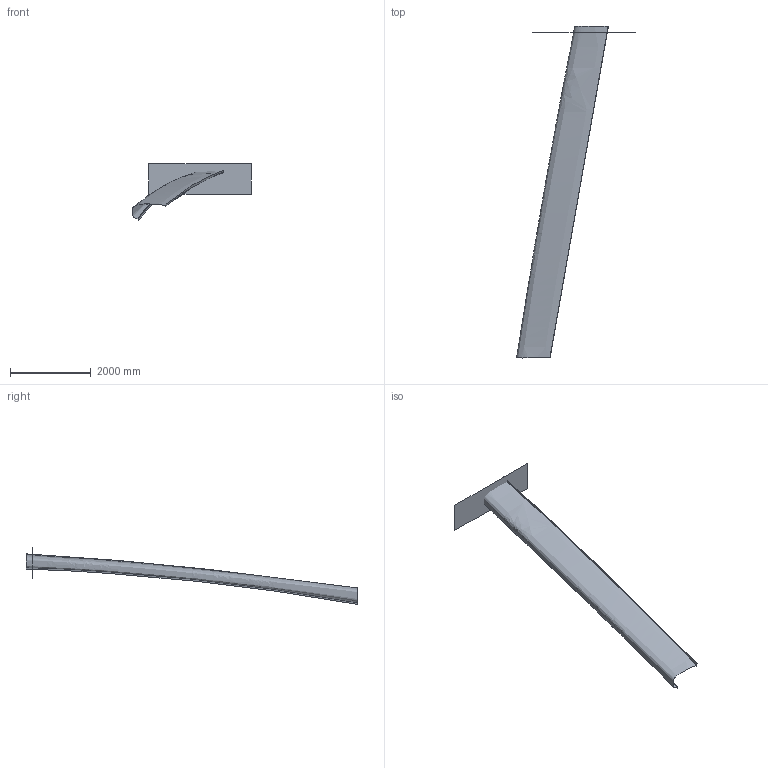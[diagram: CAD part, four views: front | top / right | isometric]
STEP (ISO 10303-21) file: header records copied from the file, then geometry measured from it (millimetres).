
FILE_DESCRIPTION((''),'2;1');
FILE_NAME('','2022-02-15T07:08:44',(''),(''),'','CADfix','');
FILE_SCHEMA(('AUTOMOTIVE_DESIGN { 1 0 10303 214 1 1 1 1 }'));
Length unit declared in the file: inch
Bounding box: 2940.04 x 8220.82 x 1408.23 mm (x, y, z)
Surface area: 12043945.6 mm2 (no closed solid volume)
Topology: 0 solids, 0 shells, 4 faces, 16 edges, 16 vertices
Faces by surface type: bspline 4
Entity records: 23685 total; most frequent: CARTESIAN_POINT 23662, B_SPLINE_SURFACE_WITH_KNOTS 4, DIMENSIONAL_EXPONENTS 2, PLANE_ANGLE_MEASURE_WITH_UNIT 1, LENGTH_MEASURE_WITH_UNIT 1, UNCERTAINTY_MEASURE_WITH_UNIT 1, GEOMETRIC_SET 1, GEOMETRICALLY_BOUNDED_SURFACE_SHAPE_REPRESENTATION 1
